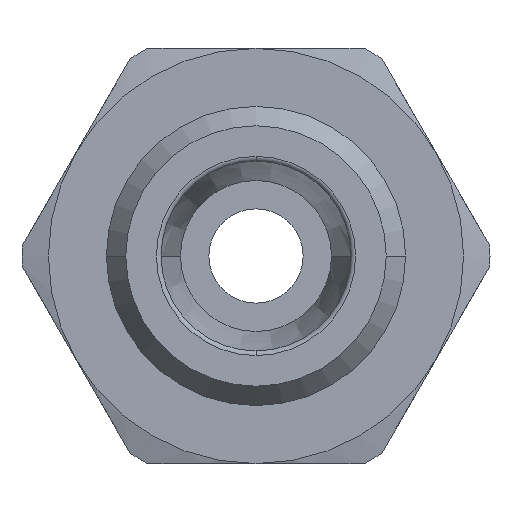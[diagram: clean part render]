
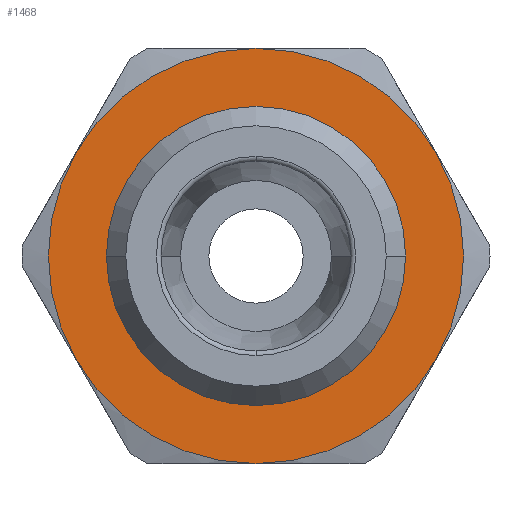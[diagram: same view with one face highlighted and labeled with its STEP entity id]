
A CAD part, left-side view. The second image highlights one B-rep face of the part: STEP entity #1468.
In plain terms, the highlighted planar face has unit normal (-1, 0, 0) as drawn and (0, 0, 1) by its records, which use the part's own axes.
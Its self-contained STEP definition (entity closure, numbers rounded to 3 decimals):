
#626=CARTESIAN_POINT('',(-7.8,0.,4.0));
#627=VERTEX_POINT('',#626);
#653=CARTESIAN_POINT('',(7.8,0.,4.0));
#654=VERTEX_POINT('',#653);
#662=CARTESIAN_POINT('',(0.,0.,4.0));
#663=DIRECTION('',(0.0,0.0,1.0));
#664=DIRECTION('',(-1.0,0.0,0.0));
#665=AXIS2_PLACEMENT_3D('',#662,#663,#664);
#666=CIRCLE('',#665,7.8);
#667=EDGE_CURVE('',#654,#627,#666,.T.);
#1348=CARTESIAN_POINT('',(0.,-7.8,4.));
#1349=VERTEX_POINT('',#1348);
#1350=CARTESIAN_POINT('',(0.,0.,4.0));
#1351=DIRECTION('',(0.0,0.0,1.0));
#1352=DIRECTION('',(-1.0,0.0,0.0));
#1353=AXIS2_PLACEMENT_3D('',#1350,#1351,#1352);
#1354=CIRCLE('',#1353,7.8);
#1355=EDGE_CURVE('',#627,#1349,#1354,.T.);
#1357=CARTESIAN_POINT('',(0.,0.,4.0));
#1358=DIRECTION('',(0.0,0.0,1.0));
#1359=DIRECTION('',(-1.0,0.0,0.0));
#1360=AXIS2_PLACEMENT_3D('',#1357,#1358,#1359);
#1361=CIRCLE('',#1360,7.8);
#1362=EDGE_CURVE('',#1349,#654,#1361,.T.);
#1402=CARTESIAN_POINT('',(0.,0.,4.0));
#1403=DIRECTION('',(0.0,0.0,1.0));
#1404=DIRECTION('',(1.0,0.0,0.0));
#1405=AXIS2_PLACEMENT_3D('',#1402,#1403,#1404);
#1406=PLANE('',#1405);
#1407=CARTESIAN_POINT('',(5.5,-9.526,4.));
#1408=VERTEX_POINT('',#1407);
#1409=CARTESIAN_POINT('',(11.0,0.0,4.));
#1410=VERTEX_POINT('',#1409);
#1411=CARTESIAN_POINT('',(0.,0.0,4.0));
#1412=DIRECTION('',(0.0,0.0,1.0));
#1413=DIRECTION('',(1.0,0.0,0.0));
#1414=AXIS2_PLACEMENT_3D('',#1411,#1412,#1413);
#1415=CIRCLE('',#1414,11.);
#1416=EDGE_CURVE('',#1408,#1410,#1415,.T.);
#1417=ORIENTED_EDGE('',*,*,#1416,.T.);
#1418=CARTESIAN_POINT('',(5.5,9.526,4.));
#1419=VERTEX_POINT('',#1418);
#1420=CARTESIAN_POINT('',(0.,0.0,4.0));
#1421=DIRECTION('',(0.0,0.0,1.0));
#1422=DIRECTION('',(1.0,0.0,0.0));
#1423=AXIS2_PLACEMENT_3D('',#1420,#1421,#1422);
#1424=CIRCLE('',#1423,11.);
#1425=EDGE_CURVE('',#1410,#1419,#1424,.T.);
#1426=ORIENTED_EDGE('',*,*,#1425,.T.);
#1427=CARTESIAN_POINT('',(-5.5,9.526,4.));
#1428=VERTEX_POINT('',#1427);
#1429=CARTESIAN_POINT('',(0.,0.0,4.0));
#1430=DIRECTION('',(0.0,0.0,1.0));
#1431=DIRECTION('',(1.0,0.0,0.0));
#1432=AXIS2_PLACEMENT_3D('',#1429,#1430,#1431);
#1433=CIRCLE('',#1432,11.);
#1434=EDGE_CURVE('',#1419,#1428,#1433,.T.);
#1435=ORIENTED_EDGE('',*,*,#1434,.T.);
#1436=CARTESIAN_POINT('',(-11.0,0.,4.));
#1437=VERTEX_POINT('',#1436);
#1438=CARTESIAN_POINT('',(0.,0.0,4.0));
#1439=DIRECTION('',(0.0,0.0,1.0));
#1440=DIRECTION('',(1.0,0.0,0.0));
#1441=AXIS2_PLACEMENT_3D('',#1438,#1439,#1440);
#1442=CIRCLE('',#1441,11.);
#1443=EDGE_CURVE('',#1428,#1437,#1442,.T.);
#1444=ORIENTED_EDGE('',*,*,#1443,.T.);
#1445=CARTESIAN_POINT('',(-5.5,-9.526,4.));
#1446=VERTEX_POINT('',#1445);
#1447=CARTESIAN_POINT('',(0.,0.0,4.0));
#1448=DIRECTION('',(0.0,0.0,1.0));
#1449=DIRECTION('',(1.0,0.0,0.0));
#1450=AXIS2_PLACEMENT_3D('',#1447,#1448,#1449);
#1451=CIRCLE('',#1450,11.);
#1452=EDGE_CURVE('',#1437,#1446,#1451,.T.);
#1453=ORIENTED_EDGE('',*,*,#1452,.T.);
#1454=CARTESIAN_POINT('',(0.,0.0,4.0));
#1455=DIRECTION('',(0.0,0.0,1.0));
#1456=DIRECTION('',(1.0,0.0,0.0));
#1457=AXIS2_PLACEMENT_3D('',#1454,#1455,#1456);
#1458=CIRCLE('',#1457,11.);
#1459=EDGE_CURVE('',#1446,#1408,#1458,.T.);
#1460=ORIENTED_EDGE('',*,*,#1459,.T.);
#1461=EDGE_LOOP('',(#1417,#1426,#1435,#1444,#1453,#1460));
#1462=FACE_OUTER_BOUND('',#1461,.T.);
#1463=ORIENTED_EDGE('',*,*,#1362,.F.);
#1464=ORIENTED_EDGE('',*,*,#1355,.F.);
#1465=ORIENTED_EDGE('',*,*,#667,.F.);
#1466=EDGE_LOOP('',(#1463,#1464,#1465));
#1467=FACE_BOUND('',#1466,.T.);
#1468=ADVANCED_FACE('',(#1462,#1467),#1406,.T.);
